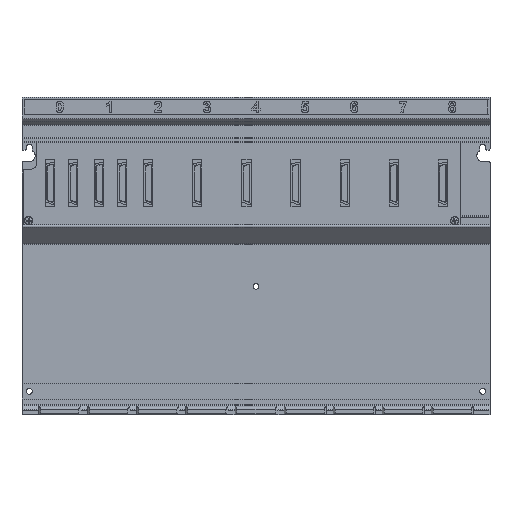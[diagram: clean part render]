
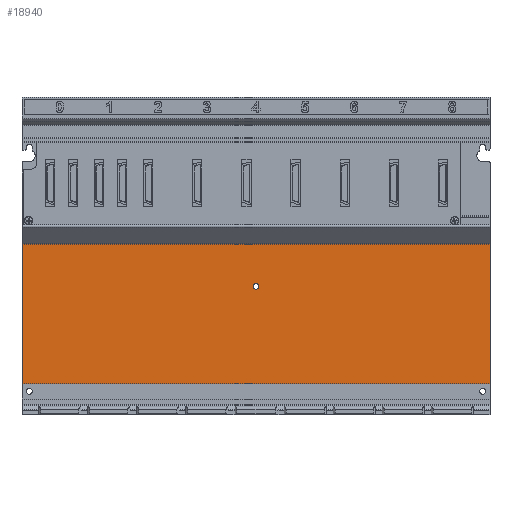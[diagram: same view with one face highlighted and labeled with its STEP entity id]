
A CAD part, top view. The second image highlights one B-rep face of the part: STEP entity #18940.
In plain terms, the highlighted planar face has unit normal (0, 0, 1).
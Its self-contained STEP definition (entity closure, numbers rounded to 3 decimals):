
#1236 = CARTESIAN_POINT ( 'NONE',  ( 137.85, -10.585, -9.518 ) ) ;
#1241 = CARTESIAN_POINT ( 'NONE',  ( 137.85, -118.947, -9.518 ) ) ;
#1357 = CARTESIAN_POINT ( 'NONE',  ( -226.55, -10.585, -9.518 ) ) ;
#1360 = CARTESIAN_POINT ( 'NONE',  ( -226.55, -118.947, -9.518 ) ) ;
#2002 = CARTESIAN_POINT ( 'NONE',  ( -44.35, -43.22, -9.518 ) ) ;
#2003 = DIRECTION ( 'NONE',  ( 0., 0., 1. ) ) ;
#2004 = DIRECTION ( 'NONE',  ( 1., 0., 0. ) ) ;
#6890 = VERTEX_POINT ( 'NONE', #36226 ) ;
#6891 = VERTEX_POINT ( 'NONE', #36227 ) ;
#18940 = ADVANCED_FACE ( 'NONE', ( #41206, #41191 ), #41208, .F. ) ;
#26189 = EDGE_CURVE ( 'NONE', #27954, #27959, #44170, .T. ) ;
#26353 = EDGE_CURVE ( 'NONE', #28084, #28089, #44588, .T. ) ;
#26388 = EDGE_CURVE ( 'NONE', #27954, #28084, #44695, .T. ) ;
#26398 = EDGE_CURVE ( 'NONE', #27959, #28089, #44725, .T. ) ;
#26399 = EDGE_CURVE ( 'NONE', #6891, #6890, #42742, .T. ) ;
#27954 = VERTEX_POINT ( 'NONE', #1236 ) ;
#27959 = VERTEX_POINT ( 'NONE', #1241 ) ;
#28084 = VERTEX_POINT ( 'NONE', #1357 ) ;
#28089 = VERTEX_POINT ( 'NONE', #1360 ) ;
#29236 = ORIENTED_EDGE ( 'NONE', *, *, #26399, .F. ) ;
#29237 = ORIENTED_EDGE ( 'NONE', *, *, #30413, .F. ) ;
#29238 = ORIENTED_EDGE ( 'NONE', *, *, #26388, .T. ) ;
#29239 = ORIENTED_EDGE ( 'NONE', *, *, #26353, .T. ) ;
#29240 = ORIENTED_EDGE ( 'NONE', *, *, #26398, .F. ) ;
#29241 = ORIENTED_EDGE ( 'NONE', *, *, #26189, .F. ) ;
#29978 = EDGE_LOOP ( 'NONE', ( #29236, #29237 ) ) ;
#29985 = EDGE_LOOP ( 'NONE', ( #29238, #29239, #29240, #29241 ) ) ;
#30413 = EDGE_CURVE ( 'NONE', #6890, #6891, #45769, .T. ) ;
#36226 = CARTESIAN_POINT ( 'NONE',  ( -46.6, -43.22, -9.518 ) ) ;
#36227 = CARTESIAN_POINT ( 'NONE',  ( -42.1, -43.22, -9.518 ) ) ;
#40071 = AXIS2_PLACEMENT_3D ( 'NONE', #41217, #41218, #41219 ) ;
#41191 = FACE_OUTER_BOUND ( 'NONE', #29985, .T. ) ;
#41206 = FACE_BOUND ( 'NONE', #29978, .T. ) ;
#41208 = PLANE ( 'NONE',  #40071 ) ;
#41217 = CARTESIAN_POINT ( 'NONE',  ( 727.954, -7.37, -9.518 ) ) ;
#41218 = DIRECTION ( 'NONE',  ( 0., 0., -1. ) ) ;
#41219 = DIRECTION ( 'NONE',  ( 0., 1., 0. ) ) ;
#42491 = VECTOR ( 'NONE', #44174, 1000. ) ;
#42685 = VECTOR ( 'NONE', #44591, 1000. ) ;
#42731 = VECTOR ( 'NONE', #44697, 1000. ) ;
#42741 = VECTOR ( 'NONE', #44727, 1000. ) ;
#42742 = CIRCLE ( 'NONE', #42744, 2.25 ) ;
#42744 = AXIS2_PLACEMENT_3D ( 'NONE', #44731, #44732, #44733 ) ;
#44163 = CARTESIAN_POINT ( 'NONE',  ( 137.85, -7.37, -9.518 ) ) ;
#44170 = LINE ( 'NONE', #44163, #42491 ) ;
#44174 = DIRECTION ( 'NONE',  ( 0., -1., 0. ) ) ;
#44588 = LINE ( 'NONE', #44590, #42685 ) ;
#44590 = CARTESIAN_POINT ( 'NONE',  ( -226.55, -7.37, -9.518 ) ) ;
#44591 = DIRECTION ( 'NONE',  ( 0., -1., 0. ) ) ;
#44695 = LINE ( 'NONE', #44696, #42731 ) ;
#44696 = CARTESIAN_POINT ( 'NONE',  ( 727.954, -10.585, -9.518 ) ) ;
#44697 = DIRECTION ( 'NONE',  ( -1., 0., 0. ) ) ;
#44725 = LINE ( 'NONE', #44726, #42741 ) ;
#44726 = CARTESIAN_POINT ( 'NONE',  ( -226.55, -118.947, -9.518 ) ) ;
#44727 = DIRECTION ( 'NONE',  ( -1., 0., 0. ) ) ;
#44731 = CARTESIAN_POINT ( 'NONE',  ( -44.35, -43.22, -9.518 ) ) ;
#44732 = DIRECTION ( 'NONE',  ( 0., 0., 1. ) ) ;
#44733 = DIRECTION ( 'NONE',  ( 1., 0., 0. ) ) ;
#45769 = CIRCLE ( 'NONE', #45770, 2.25 ) ;
#45770 = AXIS2_PLACEMENT_3D ( 'NONE', #2002, #2003, #2004 ) ;
